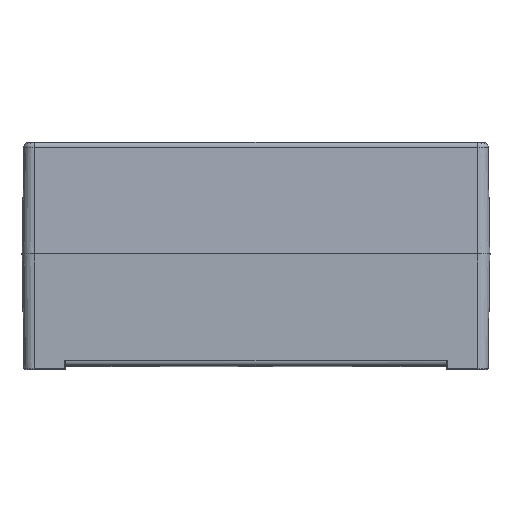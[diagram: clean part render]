
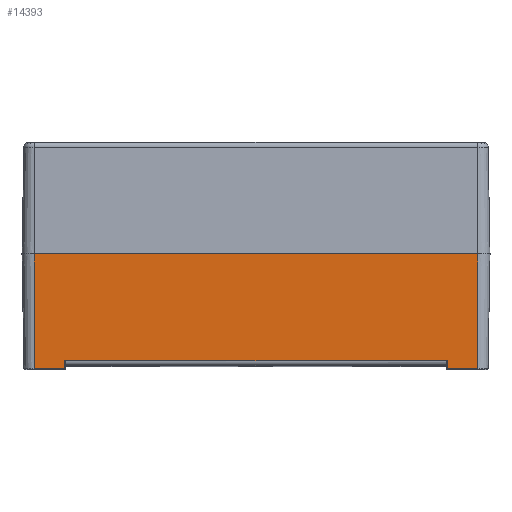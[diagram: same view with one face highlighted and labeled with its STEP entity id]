
A CAD part, top view. The second image highlights one B-rep face of the part: STEP entity #14393.
In plain terms, the highlighted planar face has unit normal (0, -0.018, 1).
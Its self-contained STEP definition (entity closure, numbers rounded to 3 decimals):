
#1148 = VECTOR ( 'NONE', #14913, 1000. ) ;
#1973 = ORIENTED_EDGE ( 'NONE', *, *, #31689, .F. ) ;
#1979 = LINE ( 'NONE', #22175, #32300 ) ;
#1986 = CARTESIAN_POINT ( 'NONE',  ( -94.04, -55., 149.04 ) ) ;
#2134 = LINE ( 'NONE', #17742, #31542 ) ;
#2390 = EDGE_CURVE ( 'NONE', #23748, #2471, #1979, .T. ) ;
#2471 = VERTEX_POINT ( 'NONE', #17219 ) ;
#2475 = PLANE ( 'NONE',  #23904 ) ;
#3078 = VECTOR ( 'NONE', #14114, 1000. ) ;
#3605 = ORIENTED_EDGE ( 'NONE', *, *, #2390, .F. ) ;
#4084 = EDGE_LOOP ( 'NONE', ( #31387, #23541, #20110, #5496, #3605, #1973, #24991, #35802 ) ) ;
#4969 = VERTEX_POINT ( 'NONE', #33339 ) ;
#4998 = LINE ( 'NONE', #1986, #12034 ) ;
#5065 = DIRECTION ( 'NONE',  ( 0., 1., 0.017 ) ) ;
#5496 = ORIENTED_EDGE ( 'NONE', *, *, #32277, .T. ) ;
#5560 = DIRECTION ( 'NONE',  ( 0., -0.017, 1. ) ) ;
#5825 = VERTEX_POINT ( 'NONE', #22295 ) ;
#7882 = CARTESIAN_POINT ( 'NONE',  ( 94.04, -56.5, 149.014 ) ) ;
#8286 = LINE ( 'NONE', #32163, #1148 ) ;
#9379 = CARTESIAN_POINT ( 'NONE',  ( -109., 0., 150. ) ) ;
#11866 = CARTESIAN_POINT ( 'NONE',  ( -94.04, -56.5, 149.014 ) ) ;
#12034 = VECTOR ( 'NONE', #5065, 1000. ) ;
#12447 = FACE_OUTER_BOUND ( 'NONE', #4084, .T. ) ;
#13548 = DIRECTION ( 'NONE',  ( 1., 0., 0. ) ) ;
#14114 = DIRECTION ( 'NONE',  ( 0., 1., 0.017 ) ) ;
#14393 = ADVANCED_FACE ( 'NONE', ( #12447 ), #2475, .T. ) ;
#14893 = VERTEX_POINT ( 'NONE', #20626 ) ;
#14913 = DIRECTION ( 'NONE',  ( 0., 1., 0.017 ) ) ;
#16939 = VERTEX_POINT ( 'NONE', #7882 ) ;
#17219 = CARTESIAN_POINT ( 'NONE',  ( 109., 0., 150. ) ) ;
#17485 = CARTESIAN_POINT ( 'NONE',  ( 94.04, -55., 149.04 ) ) ;
#17742 = CARTESIAN_POINT ( 'NONE',  ( 109., -56.5, 149.014 ) ) ;
#17969 = DIRECTION ( 'NONE',  ( -1., 0., 0. ) ) ;
#18038 = VECTOR ( 'NONE', #20672, 1000. ) ;
#20110 = ORIENTED_EDGE ( 'NONE', *, *, #31683, .F. ) ;
#20322 = CARTESIAN_POINT ( 'NONE',  ( -109., 0., 150. ) ) ;
#20590 = DIRECTION ( 'NONE',  ( -1., 0., 0. ) ) ;
#20626 = CARTESIAN_POINT ( 'NONE',  ( 94.04, -52.544, 149.083 ) ) ;
#20672 = DIRECTION ( 'NONE',  ( 0., 1., 0.017 ) ) ;
#22044 = VECTOR ( 'NONE', #17969, 1000. ) ;
#22175 = CARTESIAN_POINT ( 'NONE',  ( -109., 0., 150. ) ) ;
#22295 = CARTESIAN_POINT ( 'NONE',  ( -94.04, -52.544, 149.083 ) ) ;
#23465 = VERTEX_POINT ( 'NONE', #28506 ) ;
#23541 = ORIENTED_EDGE ( 'NONE', *, *, #31628, .F. ) ;
#23748 = VERTEX_POINT ( 'NONE', #9379 ) ;
#23904 = AXIS2_PLACEMENT_3D ( 'NONE', #20322, #5560, #26076 ) ;
#24991 = ORIENTED_EDGE ( 'NONE', *, *, #31737, .F. ) ;
#26076 = DIRECTION ( 'NONE',  ( 0., -1., -0.017 ) ) ;
#26578 = LINE ( 'NONE', #17485, #3078 ) ;
#26751 = CARTESIAN_POINT ( 'NONE',  ( -94.04, -56.5, 149.014 ) ) ;
#27455 = VECTOR ( 'NONE', #31398, 1000. ) ;
#28506 = CARTESIAN_POINT ( 'NONE',  ( 109., -56.5, 149.014 ) ) ;
#29698 = LINE ( 'NONE', #11866, #22044 ) ;
#31168 = VERTEX_POINT ( 'NONE', #26751 ) ;
#31387 = ORIENTED_EDGE ( 'NONE', *, *, #31622, .T. ) ;
#31398 = DIRECTION ( 'NONE',  ( 1., 0., 0. ) ) ;
#31542 = VECTOR ( 'NONE', #20590, 1000. ) ;
#31576 = EDGE_CURVE ( 'NONE', #31168, #5825, #4998, .T. ) ;
#31622 = EDGE_CURVE ( 'NONE', #5825, #14893, #34284, .T. ) ;
#31628 = EDGE_CURVE ( 'NONE', #16939, #14893, #26578, .T. ) ;
#31683 = EDGE_CURVE ( 'NONE', #23465, #16939, #2134, .T. ) ;
#31689 = EDGE_CURVE ( 'NONE', #4969, #23748, #8286, .T. ) ;
#31737 = EDGE_CURVE ( 'NONE', #31168, #4969, #29698, .T. ) ;
#32163 = CARTESIAN_POINT ( 'NONE',  ( -109., 0., 150. ) ) ;
#32277 = EDGE_CURVE ( 'NONE', #23465, #2471, #33296, .T. ) ;
#32300 = VECTOR ( 'NONE', #13548, 1000. ) ;
#33296 = LINE ( 'NONE', #35047, #18038 ) ;
#33339 = CARTESIAN_POINT ( 'NONE',  ( -109., -56.5, 149.014 ) ) ;
#34284 = LINE ( 'NONE', #34741, #27455 ) ;
#34741 = CARTESIAN_POINT ( 'NONE',  ( 94.04, -52.544, 149.083 ) ) ;
#35047 = CARTESIAN_POINT ( 'NONE',  ( 109., 0., 150. ) ) ;
#35802 = ORIENTED_EDGE ( 'NONE', *, *, #31576, .T. ) ;
